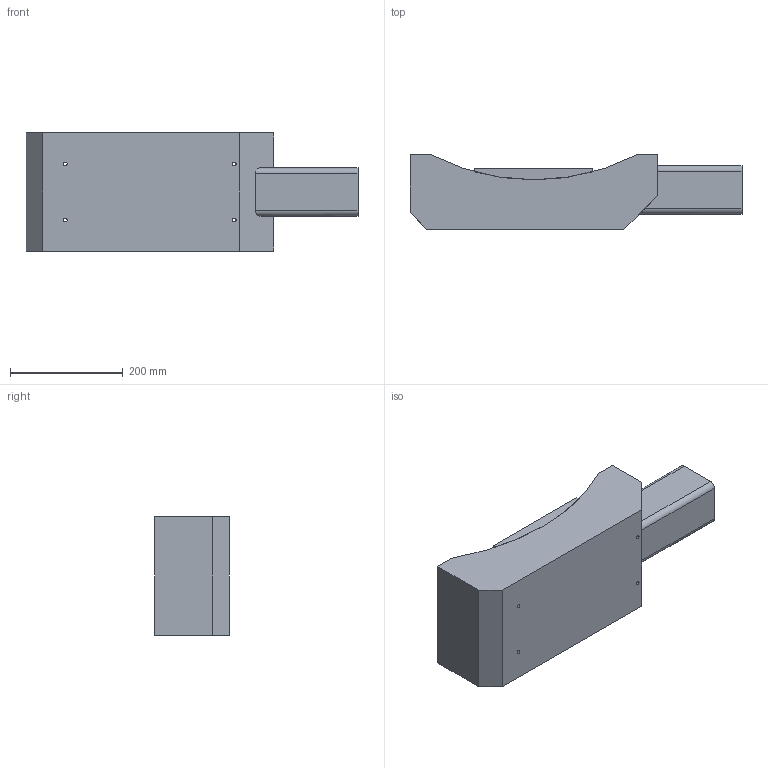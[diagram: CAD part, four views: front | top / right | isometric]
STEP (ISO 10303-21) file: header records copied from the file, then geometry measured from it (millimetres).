
FILE_DESCRIPTION (( 'STEP AP203' ), '1' );
FILE_NAME ('PT- GD307×°Åä.STEP', '2025-03-07T08:45:29', ( '' ), ( '' ), 'SwSTEP 2.0', 'SolidWorks 2023', '' );
FILE_SCHEMA (( 'CONFIG_CONTROL_DESIGN' ));
Length unit declared in the file: millimetre
Products named in the file (3): PT- GD307-02; PT- GD307-01; PT- GD307装配
Assembly tree (2 placements, depth 2):
  PT- GD307装配
    PT- GD307-01
    PT- GD307-02
Bounding box: 590 x 133 x 210 mm (x, y, z)
Volume: 11257095.1 mm3; surface area: 485624.9 mm2
Topology: 2 solids, 2 shells, 65 faces, 171 edges, 114 vertices
Faces by surface type: cylinder 42, plane 23
Entity records: 3228 total; most frequent: CARTESIAN_POINT 1265, ORIENTED_EDGE 342, DIRECTION 335, EDGE_CURVE 171, AXIS2_PLACEMENT_3D 124, VERTEX_POINT 114, EDGE_LOOP 97, VECTOR 87
